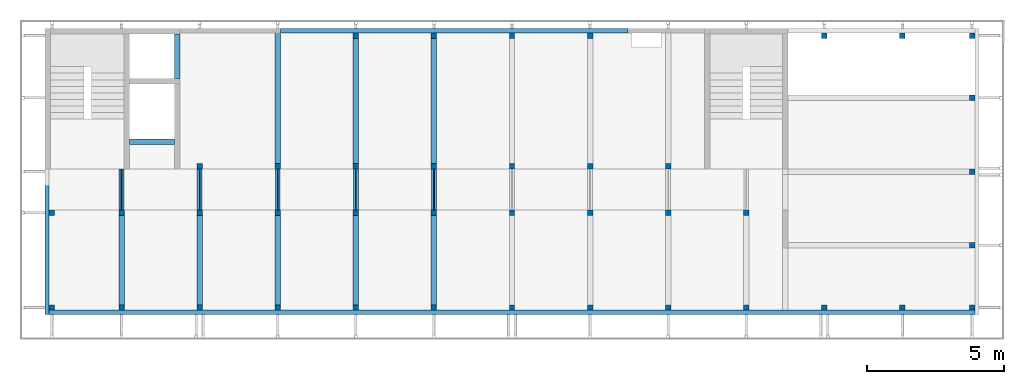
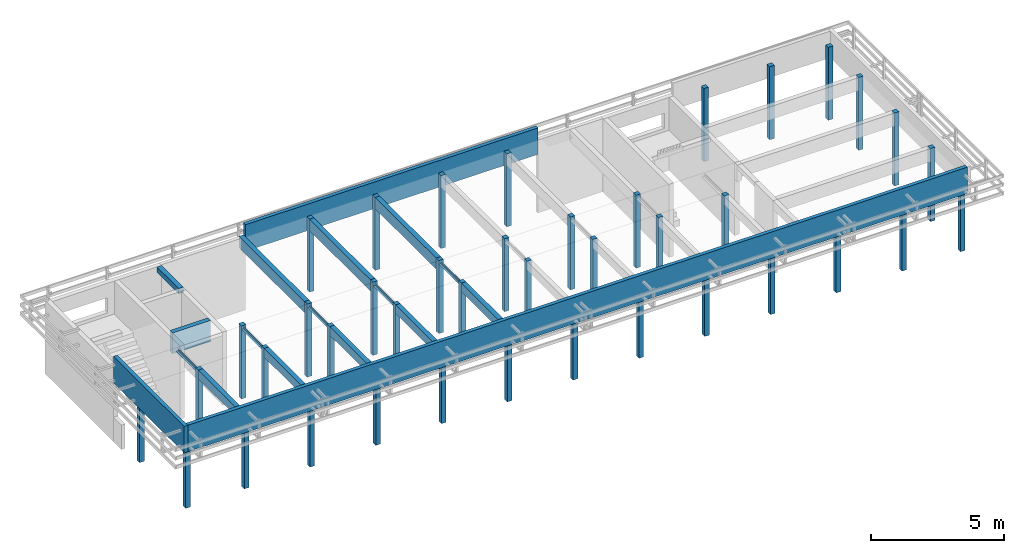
# One storey, part 1 of 44: 40 columns, 18 beams.
"""IFC4 building model written with IfcOpenShell, lengths in metres."""

from ifc_helpers import new_model, entity, si_unit, converted_unit, derived_unit, frame, frame_2d, origin, origin_with_axes, place, context, subcontext, project, spatial, polyline, rectangle, outline, extrude, material, element, save


model = new_model("IFC4")

# Units and contexts
model_context = context("Model", 3, precision=1e-05, world=origin())
plan_context = context("Plan", 2, precision=1e-05, world=origin())
body_context = subcontext(model_context, "Body", "Model", "MODEL_VIEW")
ifc_project = project(units=[si_unit("LENGTHUNIT", "METRE"), si_unit("AREAUNIT", "SQUARE_METRE"), si_unit("VOLUMEUNIT", "CUBIC_METRE"), si_unit("MASSUNIT", "GRAM", prefix="KILO"), converted_unit("PLANEANGLEUNIT", "DEGREE", entity("IfcPlaneAngleMeasure", 0.0174532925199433), si_unit("PLANEANGLEUNIT", "RADIAN"), dimensions=[0, 0, 0, 0, 0, 0, 0]), derived_unit("THERMALTRANSMITTANCEUNIT", [(si_unit("POWERUNIT", "WATT"), 1), (si_unit("THERMODYNAMICTEMPERATUREUNIT", "KELVIN"), -1), (si_unit("LENGTHUNIT", "METRE"), -2)]), derived_unit("VOLUMETRICFLOWRATEUNIT", [(si_unit("LENGTHUNIT", "METRE"), 3), (converted_unit("TIMEUNIT", "hour", entity("IfcTimeMeasure", 3600.0), si_unit("TIMEUNIT", "SECOND"), dimensions=[0, 0, 1, 0, 0, 0, 0]), -1), (si_unit("LENGTHUNIT", "METRE"), -1)])], contexts=[model_context, plan_context])

# Site, building, storey
site_placement = place(None, origin())
site = spatial("IfcSite", under=ifc_project, at=site_placement, Name="Site", CompositionType="ELEMENT")
building_placement = place(site_placement, origin())
building = spatial("IfcBuilding", under=site, at=building_placement, Name="Admin", CompositionType="ELEMENT")
storey_placement = place(building_placement, frame((0.0, 0.0, 3.25)))
storey = spatial("IfcBuildingStorey", under=building, at=storey_placement, Name="01-Etage1", CompositionType="ELEMENT", Elevation=3.25)

# Columns
ifc_material_1 = material(Name="GL24h")
column_1_placement = place(storey_placement, frame((43.8698001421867, 15.499449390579, 0.0)))
element("IfcColumn", 1, at=column_1_placement, inside=storey, material=ifc_material_1, Name="Colonnes bois R+1", PredefinedType="COLUMN", context=body_context, shape_type="SweptSolid", body=[
    extrude(rectangle(XDim=0.200000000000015, YDim=0.2, at=frame_2d((0.100000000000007, 0.1), x_axis=(1.0, 0.0))), origin_with_axes(), (0.0, 0.0, 1.0), 3.36),
])
ifc_material_2 = material(Name="GL24h")
column_2_placement = place(storey_placement, frame((41.0098001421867, 15.499449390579, 0.0)))
element("IfcColumn", 2, at=column_2_placement, inside=storey, material=ifc_material_2, Name="Colonnes bois R+1", PredefinedType="COLUMN", context=body_context, shape_type="SweptSolid", body=[
    extrude(rectangle(XDim=0.200000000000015, YDim=0.2, at=frame_2d((0.100000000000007, 0.1), x_axis=(1.0, 0.0))), origin_with_axes(), (0.0, 0.0, 1.0), 3.36),
])
ifc_material_3 = material(Name="GL24h")
column_3_placement = place(storey_placement, frame((38.1498001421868, 15.499449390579, 0.0)))
element("IfcColumn", 3, at=column_3_placement, inside=storey, material=ifc_material_3, Name="Colonnes bois R+1", PredefinedType="COLUMN", context=body_context, shape_type="SweptSolid", body=[
    extrude(rectangle(XDim=0.200000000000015, YDim=0.2, at=frame_2d((0.100000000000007, 0.1), x_axis=(1.0, 0.0))), origin_with_axes(), (0.0, 0.0, 1.0), 3.36),
])
ifc_material_4 = material(Name="GL24h")
column_4_placement = place(storey_placement, frame((35.2898001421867, 15.499449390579, 0.0)))
element("IfcColumn", 4, at=column_4_placement, inside=storey, material=ifc_material_4, Name="Colonnes bois R+1", PredefinedType="COLUMN", context=body_context, shape_type="SweptSolid", body=[
    extrude(rectangle(XDim=0.200000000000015, YDim=0.2, at=frame_2d((0.100000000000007, 0.1), x_axis=(1.0, 0.0))), origin_with_axes(), (0.0, 0.0, 1.0), 3.36),
])
ifc_material_5 = material(Name="GL24h")
column_5_placement = place(storey_placement, frame((32.4298001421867, 15.499449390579, 0.0)))
element("IfcColumn", 5, at=column_5_placement, inside=storey, material=ifc_material_5, Name="Colonnes bois R+1", PredefinedType="COLUMN", context=body_context, shape_type="SweptSolid", body=[
    extrude(rectangle(XDim=0.200000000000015, YDim=0.2, at=frame_2d((0.100000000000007, 0.1), x_axis=(1.0, 0.0))), origin_with_axes(), (0.0, 0.0, 1.0), 3.36),
])
ifc_material_6 = material(Name="GL24h")
column_6_placement = place(storey_placement, frame((41.0098001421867, 17.199449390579, 0.0)))
element("IfcColumn", 6, at=column_6_placement, inside=storey, material=ifc_material_6, Name="Colonnes bois R+1", PredefinedType="COLUMN", context=body_context, shape_type="SweptSolid", body=[
    extrude(rectangle(XDim=0.200000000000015, YDim=0.2, at=frame_2d((0.100000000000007, 0.1), x_axis=(1.0, 0.0))), origin_with_axes(), (0.0, 0.0, 1.0), 3.36),
])
ifc_material_7 = material(Name="GL24h")
column_7_placement = place(storey_placement, frame((35.2898001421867, 17.199449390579, 0.0)))
element("IfcColumn", 7, at=column_7_placement, inside=storey, material=ifc_material_7, Name="Colonnes bois R+1", PredefinedType="COLUMN", context=body_context, shape_type="SweptSolid", body=[
    extrude(rectangle(XDim=0.200000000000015, YDim=0.2, at=frame_2d((0.100000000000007, 0.1), x_axis=(1.0, 0.0))), origin_with_axes(), (0.0, 0.0, 1.0), 3.36),
])
ifc_material_8 = material(Name="GL24h")
column_8_placement = place(storey_placement, frame((38.1498001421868, 17.199449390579, 0.0)))
element("IfcColumn", 8, at=column_8_placement, inside=storey, material=ifc_material_8, Name="Colonnes bois R+1", PredefinedType="COLUMN", context=body_context, shape_type="SweptSolid", body=[
    extrude(rectangle(XDim=0.200000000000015, YDim=0.2, at=frame_2d((0.100000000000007, 0.1), x_axis=(1.0, 0.0))), origin_with_axes(), (0.0, 0.0, 1.0), 3.36),
])
ifc_material_9 = material(Name="GL24h")
column_9_placement = place(storey_placement, frame((57.8598001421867, 17.009449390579, 0.0)))
element("IfcColumn", 9, at=column_9_placement, inside=storey, material=ifc_material_9, Name="Colonnes bois R+1", PredefinedType="COLUMN", context=body_context, shape_type="SweptSolid", body=[
    extrude(rectangle(XDim=0.200000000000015, YDim=0.2, at=frame_2d((0.100000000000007, 0.1), x_axis=(1.0, 0.0))), origin_with_axes(), (0.0, 0.0, 1.0), 3.36),
])
ifc_material_10 = material(Name="GL24h")
column_10_placement = place(storey_placement, frame((57.8598001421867, 14.309449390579, 0.0)))
element("IfcColumn", 10, at=column_10_placement, inside=storey, material=ifc_material_10, Name="Colonnes bois R+1", PredefinedType="COLUMN", context=body_context, shape_type="SweptSolid", body=[
    extrude(rectangle(XDim=0.200000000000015, YDim=0.2, at=frame_2d((0.100000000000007, 0.1), x_axis=(1.0, 0.0))), origin_with_axes(), (0.0, 0.0, 1.0), 3.36),
])
ifc_material_11 = material(Name="GL24h")
column_11_placement = place(storey_placement, frame((55.3098001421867, 21.989449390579, 0.0)))
element("IfcColumn", 11, at=column_11_placement, inside=storey, material=ifc_material_11, Name="Colonnes bois R+1", PredefinedType="COLUMN", context=body_context, shape_type="SweptSolid", body=[
    extrude(rectangle(XDim=0.200000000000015, YDim=0.2, at=frame_2d((0.100000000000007, 0.1), x_axis=(1.0, 0.0))), origin_with_axes(), (0.0, 0.0, 1.0), 3.36),
])
ifc_material_12 = material(Name="GL24h")
column_12_placement = place(storey_placement, frame((52.4498001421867, 21.989449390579, 0.0)))
element("IfcColumn", 12, at=column_12_placement, inside=storey, material=ifc_material_12, Name="Colonnes bois R+1", PredefinedType="COLUMN", context=body_context, shape_type="SweptSolid", body=[
    extrude(rectangle(XDim=0.200000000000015, YDim=0.2, at=frame_2d((0.100000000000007, 0.1), x_axis=(1.0, 0.0))), origin_with_axes(), (0.0, 0.0, 1.0), 3.36),
])
ifc_material_13 = material(Name="GL24h")
column_13_placement = place(storey_placement, frame((57.8598001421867, 19.709449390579, 0.0)))
element("IfcColumn", 13, at=column_13_placement, inside=storey, material=ifc_material_13, Name="Colonnes bois R+1", PredefinedType="COLUMN", context=body_context, shape_type="SweptSolid", body=[
    extrude(rectangle(XDim=0.200000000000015, YDim=0.2, at=frame_2d((0.100000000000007, 0.1), x_axis=(1.0, 0.0))), origin_with_axes(), (0.0, 0.0, 1.0), 3.36),
])
ifc_material_14 = material(Name="GL24h")
column_14_placement = place(storey_placement, frame((57.8598001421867, 21.989449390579, 0.0)))
element("IfcColumn", 14, at=column_14_placement, inside=storey, material=ifc_material_14, Name="Colonnes bois R+1", PredefinedType="COLUMN", context=body_context, shape_type="SweptSolid", body=[
    extrude(rectangle(XDim=0.200000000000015, YDim=0.2, at=frame_2d((0.100000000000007, 0.1), x_axis=(1.0, 0.0))), origin_with_axes(), (0.0, 0.0, 1.0), 3.36),
])
ifc_material_15 = material(Name="GL24h")
column_15_placement = place(storey_placement, frame((46.7298001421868, 15.499449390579, 0.0)))
element("IfcColumn", 15, at=column_15_placement, inside=storey, material=ifc_material_15, Name="Colonnes bois R+1", PredefinedType="COLUMN", context=body_context, shape_type="SweptSolid", body=[
    extrude(rectangle(XDim=0.200000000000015, YDim=0.2, at=frame_2d((0.100000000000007, 0.1), x_axis=(1.0, 0.0))), origin_with_axes(), (0.0, 0.0, 1.0), 3.36),
])
ifc_material_16 = material(Name="GL24h")
column_16_placement = place(storey_placement, frame((49.5898001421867, 15.499449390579, 0.0)))
element("IfcColumn", 16, at=column_16_placement, inside=storey, material=ifc_material_16, Name="Colonnes bois R+1", PredefinedType="COLUMN", context=body_context, shape_type="SweptSolid", body=[
    extrude(rectangle(XDim=0.200000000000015, YDim=0.2, at=frame_2d((0.100000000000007, 0.1), x_axis=(1.0, 0.0))), origin_with_axes(), (0.0, 0.0, 1.0), 3.36),
])
ifc_material_17 = material(Name="GL24h")
column_17_placement = place(storey_placement, frame((49.5898001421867, 12.029449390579, 0.0)))
element("IfcColumn", 17, at=column_17_placement, inside=storey, material=ifc_material_17, Name="Colonnes bois R+1", PredefinedType="COLUMN", context=body_context, shape_type="SweptSolid", body=[
    extrude(rectangle(XDim=0.200000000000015, YDim=0.2, at=frame_2d((0.100000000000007, 0.1), x_axis=(1.0, 0.0))), origin_with_axes(), (0.0, 0.0, 1.0), 3.36),
])
ifc_material_18 = material(Name="GL24h")
column_18_placement = place(storey_placement, frame((57.8598001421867, 12.029449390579, 0.0)))
element("IfcColumn", 18, at=column_18_placement, inside=storey, material=ifc_material_18, Name="Colonnes bois R+1", PredefinedType="COLUMN", context=body_context, shape_type="SweptSolid", body=[
    extrude(rectangle(XDim=0.200000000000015, YDim=0.2, at=frame_2d((0.100000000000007, 0.1), x_axis=(1.0, 0.0))), origin_with_axes(), (0.0, 0.0, 1.0), 3.36),
])
ifc_material_19 = material(Name="GL24h")
column_19_placement = place(storey_placement, frame((55.3098001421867, 12.029449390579, 0.0)))
element("IfcColumn", 19, at=column_19_placement, inside=storey, material=ifc_material_19, Name="Colonnes bois R+1", PredefinedType="COLUMN", context=body_context, shape_type="SweptSolid", body=[
    extrude(rectangle(XDim=0.200000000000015, YDim=0.2, at=frame_2d((0.100000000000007, 0.1), x_axis=(1.0, 0.0))), origin_with_axes(), (0.0, 0.0, 1.0), 3.36),
])
ifc_material_20 = material(Name="GL24h")
column_20_placement = place(storey_placement, frame((41.0098001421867, 12.029449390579, 0.0)))
element("IfcColumn", 20, at=column_20_placement, inside=storey, material=ifc_material_20, Name="Colonnes bois R+1", PredefinedType="COLUMN", context=body_context, shape_type="SweptSolid", body=[
    extrude(rectangle(XDim=0.200000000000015, YDim=0.2, at=frame_2d((0.100000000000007, 0.1), x_axis=(1.0, 0.0))), origin_with_axes(), (0.0, 0.0, 1.0), 3.36),
])
ifc_material_21 = material(Name="GL24h")
column_21_placement = place(storey_placement, frame((38.1498001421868, 12.029449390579, 0.0)))
element("IfcColumn", 21, at=column_21_placement, inside=storey, material=ifc_material_21, Name="Colonnes bois R+1", PredefinedType="COLUMN", context=body_context, shape_type="SweptSolid", body=[
    extrude(rectangle(XDim=0.200000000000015, YDim=0.2, at=frame_2d((0.100000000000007, 0.1), x_axis=(1.0, 0.0))), origin_with_axes(), (0.0, 0.0, 1.0), 3.36),
])
ifc_material_22 = material(Name="GL24h")
column_22_placement = place(storey_placement, frame((35.2898001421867, 12.029449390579, 0.0)))
element("IfcColumn", 22, at=column_22_placement, inside=storey, material=ifc_material_22, Name="Colonnes bois R+1", PredefinedType="COLUMN", context=body_context, shape_type="SweptSolid", body=[
    extrude(rectangle(XDim=0.200000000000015, YDim=0.2, at=frame_2d((0.100000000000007, 0.1), x_axis=(1.0, 0.0))), origin_with_axes(), (0.0, 0.0, 1.0), 3.36),
])
ifc_material_23 = material(Name="GL24h")
column_23_placement = place(storey_placement, frame((29.5698001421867, 12.029449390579, 0.0)))
element("IfcColumn", 23, at=column_23_placement, inside=storey, material=ifc_material_23, Name="Colonnes bois R+1", PredefinedType="COLUMN", context=body_context, shape_type="SweptSolid", body=[
    extrude(rectangle(XDim=0.200000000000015, YDim=0.2, at=frame_2d((0.100000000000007, 0.1), x_axis=(1.0, 0.0))), origin_with_axes(), (0.0, 0.0, 1.0), 3.36),
])
ifc_material_24 = material(Name="GL24h")
column_24_placement = place(storey_placement, frame((43.8698001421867, 12.029449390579, 0.0)))
element("IfcColumn", 24, at=column_24_placement, inside=storey, material=ifc_material_24, Name="Colonnes bois R+1", PredefinedType="COLUMN", context=body_context, shape_type="SweptSolid", body=[
    extrude(rectangle(XDim=0.200000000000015, YDim=0.2, at=frame_2d((0.100000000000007, 0.1), x_axis=(1.0, 0.0))), origin_with_axes(), (0.0, 0.0, 1.0), 3.36),
])
ifc_material_25 = material(Name="GL24h")
column_25_placement = place(storey_placement, frame((46.7298001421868, 12.029449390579, 0.0)))
element("IfcColumn", 25, at=column_25_placement, inside=storey, material=ifc_material_25, Name="Colonnes bois R+1", PredefinedType="COLUMN", context=body_context, shape_type="SweptSolid", body=[
    extrude(rectangle(XDim=0.200000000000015, YDim=0.2, at=frame_2d((0.100000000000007, 0.1), x_axis=(1.0, 0.0))), origin_with_axes(), (0.0, 0.0, 1.0), 3.36),
])
ifc_material_26 = material(Name="GL24h")
column_26_placement = place(storey_placement, frame((32.4298001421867, 12.029449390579, 0.0)))
element("IfcColumn", 26, at=column_26_placement, inside=storey, material=ifc_material_26, Name="Colonnes bois R+1", PredefinedType="COLUMN", context=body_context, shape_type="SweptSolid", body=[
    extrude(rectangle(XDim=0.200000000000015, YDim=0.2, at=frame_2d((0.100000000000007, 0.1), x_axis=(1.0, 0.0))), origin_with_axes(), (0.0, 0.0, 1.0), 3.36),
])
ifc_material_27 = material(Name="GL24h")
column_27_placement = place(storey_placement, frame((52.4498001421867, 12.029449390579, 0.0)))
element("IfcColumn", 27, at=column_27_placement, inside=storey, material=ifc_material_27, Name="Colonnes bois R+1", PredefinedType="COLUMN", context=body_context, shape_type="SweptSolid", body=[
    extrude(rectangle(XDim=0.200000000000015, YDim=0.2, at=frame_2d((0.100000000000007, 0.1), x_axis=(1.0, 0.0))), origin_with_axes(), (0.0, 0.0, 1.0), 3.36),
])
ifc_material_28 = material(Name="GL24h")
column_28_placement = place(storey_placement, frame((24.1598005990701, 12.029449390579, 0.0)))
element("IfcColumn", 28, at=column_28_placement, inside=storey, material=ifc_material_28, Name="Colonnes bois R+1", PredefinedType="COLUMN", context=body_context, shape_type="SweptSolid", body=[
    extrude(rectangle(XDim=0.200000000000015, YDim=0.2, at=frame_2d((0.100000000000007, 0.1), x_axis=(1.0, 0.0))), origin_with_axes(), (0.0, 0.0, 1.0), 3.36),
])
ifc_material_29 = material(Name="GL24h")
column_29_placement = place(storey_placement, frame((26.7098005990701, 12.029449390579, 0.0)))
element("IfcColumn", 29, at=column_29_placement, inside=storey, material=ifc_material_29, Name="Colonnes bois R+1", PredefinedType="COLUMN", context=body_context, shape_type="SweptSolid", body=[
    extrude(rectangle(XDim=0.200000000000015, YDim=0.2, at=frame_2d((0.100000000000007, 0.1), x_axis=(1.0, 0.0))), origin_with_axes(), (0.0, 0.0, 1.0), 3.36),
])
ifc_material_30 = material(Name="GL24h")
column_30_placement = place(storey_placement, frame((24.1598005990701, 15.499449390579, 0.0)))
element("IfcColumn", 30, at=column_30_placement, inside=storey, material=ifc_material_30, Name="Colonnes bois R+1", PredefinedType="COLUMN", context=body_context, shape_type="SweptSolid", body=[
    extrude(rectangle(XDim=0.200000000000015, YDim=0.2, at=frame_2d((0.100000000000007, 0.1), x_axis=(1.0, 0.0))), origin_with_axes(), (0.0, 0.0, 1.0), 3.36),
])
ifc_material_31 = material(Name="GL24h")
column_31_placement = place(storey_placement, frame((41.0098001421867, 21.989449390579, 0.0)))
element("IfcColumn", 31, at=column_31_placement, inside=storey, material=ifc_material_31, Name="Colonnes bois R+1", PredefinedType="COLUMN", context=body_context, shape_type="SweptSolid", body=[
    extrude(rectangle(XDim=0.200000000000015, YDim=0.2, at=frame_2d((0.100000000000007, 0.1), x_axis=(1.0, 0.0))), origin_with_axes(), (0.0, 0.0, 1.0), 3.36),
])
ifc_material_32 = material(Name="GL24h")
column_32_placement = place(storey_placement, frame((35.2898001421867, 21.989449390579, 0.0)))
element("IfcColumn", 32, at=column_32_placement, inside=storey, material=ifc_material_32, Name="Colonnes bois R+1", PredefinedType="COLUMN", context=body_context, shape_type="SweptSolid", body=[
    extrude(rectangle(XDim=0.200000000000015, YDim=0.2, at=frame_2d((0.100000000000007, 0.1), x_axis=(1.0, 0.0))), origin_with_axes(), (0.0, 0.0, 1.0), 3.36),
])
ifc_material_33 = material(Name="GL24h")
column_33_placement = place(storey_placement, frame((38.1498001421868, 21.989449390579, 0.0)))
element("IfcColumn", 33, at=column_33_placement, inside=storey, material=ifc_material_33, Name="Colonnes bois R+1", PredefinedType="COLUMN", context=body_context, shape_type="SweptSolid", body=[
    extrude(rectangle(XDim=0.200000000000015, YDim=0.2, at=frame_2d((0.100000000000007, 0.1), x_axis=(1.0, 0.0))), origin_with_axes(), (0.0, 0.0, 1.0), 3.36),
])
ifc_material_34 = material(Name="GL24h")
column_34_placement = place(storey_placement, frame((32.4298001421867, 17.199449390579, 0.0)))
element("IfcColumn", 34, at=column_34_placement, inside=storey, material=ifc_material_34, Name="Colonnes bois R+1", PredefinedType="COLUMN", context=body_context, shape_type="SweptSolid", body=[
    extrude(rectangle(XDim=0.200000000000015, YDim=0.2, at=frame_2d((0.100000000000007, 0.1), x_axis=(1.0, 0.0))), origin_with_axes(), (0.0, 0.0, 1.0), 3.36),
])
ifc_material_35 = material(Name="GL24h")
column_35_placement = place(storey_placement, frame((26.7098005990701, 15.499449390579, 0.0)))
element("IfcColumn", 35, at=column_35_placement, inside=storey, material=ifc_material_35, Name="Colonnes bois R+1", PredefinedType="COLUMN", context=body_context, shape_type="SweptSolid", body=[
    extrude(rectangle(XDim=0.200000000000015, YDim=0.2, at=frame_2d((0.100000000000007, 0.1), x_axis=(1.0, 0.0))), origin_with_axes(), (0.0, 0.0, 1.0), 3.36),
])
ifc_material_36 = material(Name="GL24h")
column_36_placement = place(storey_placement, frame((29.5698001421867, 17.199449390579, 0.0)))
element("IfcColumn", 36, at=column_36_placement, inside=storey, material=ifc_material_36, Name="Colonnes bois R+1", PredefinedType="COLUMN", context=body_context, shape_type="SweptSolid", body=[
    extrude(rectangle(XDim=0.200000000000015, YDim=0.2, at=frame_2d((0.100000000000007, 0.1), x_axis=(1.0, 0.0))), origin_with_axes(), (0.0, 0.0, 1.0), 3.36),
])
ifc_material_37 = material(Name="GL24h")
column_37_placement = place(storey_placement, frame((29.5698001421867, 15.499449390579, 0.0)))
element("IfcColumn", 37, at=column_37_placement, inside=storey, material=ifc_material_37, Name="Colonnes bois R+1", PredefinedType="COLUMN", context=body_context, shape_type="SweptSolid", body=[
    extrude(rectangle(XDim=0.200000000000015, YDim=0.2, at=frame_2d((0.100000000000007, 0.1), x_axis=(1.0, 0.0))), origin_with_axes(), (0.0, 0.0, 1.0), 3.36),
])
ifc_material_38 = material(Name="GL24h")
column_38_placement = place(storey_placement, frame((43.8698001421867, 21.989449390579, 0.0)))
element("IfcColumn", 38, at=column_38_placement, inside=storey, material=ifc_material_38, Name="Colonnes bois R+1", PredefinedType="COLUMN", context=body_context, shape_type="SweptSolid", body=[
    extrude(rectangle(XDim=0.200000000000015, YDim=0.2, at=frame_2d((0.100000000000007, 0.1), x_axis=(1.0, 0.0))), origin_with_axes(), (0.0, 0.0, 1.0), 3.36),
])
ifc_material_39 = material(Name="GL24h")
column_39_placement = place(storey_placement, frame((46.7298001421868, 17.199449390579, 0.0)))
element("IfcColumn", 39, at=column_39_placement, inside=storey, material=ifc_material_39, Name="Colonnes bois R+1", PredefinedType="COLUMN", context=body_context, shape_type="SweptSolid", body=[
    extrude(rectangle(XDim=0.200000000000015, YDim=0.2, at=frame_2d((0.100000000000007, 0.1), x_axis=(1.0, 0.0))), origin_with_axes(), (0.0, 0.0, 1.0), 3.36),
])
ifc_material_40 = material(Name="GL24h")
column_40_placement = place(storey_placement, frame((43.8698001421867, 17.199449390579, 0.0)))
element("IfcColumn", 40, at=column_40_placement, inside=storey, material=ifc_material_40, Name="Colonnes bois R+1", PredefinedType="COLUMN", context=body_context, shape_type="SweptSolid", body=[
    extrude(rectangle(XDim=0.200000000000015, YDim=0.2, at=frame_2d((0.100000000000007, 0.1), x_axis=(1.0, 0.0))), origin_with_axes(), (0.0, 0.0, 1.0), 3.36),
])

# Beams
ifc_material_41 = material(Name="GL24h")
beam_1_placement = place(storey_placement, frame((38.1498001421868, 21.989449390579, 2.84), z_axis=(0.0, 0.0, 1.0), x_axis=(0.0, -1.0, 0.0)))
element("IfcBeam", 41, at=beam_1_placement, inside=storey, material=ifc_material_41, Name="P 1.04", PredefinedType="NOTDEFINED", context=body_context, shape_type="SweptSolid", body=[
    extrude(rectangle(XDim=0.2, YDim=0.52, at=frame_2d((0.1, 0.26), x_axis=(1.0, 0.0))), frame((0.0, 0.0, 0.0), z_axis=(1.0, 0.0, 0.0), x_axis=(0.0, 1.0, 0.0)), (0.0, 0.0, 1.0), 4.59),
])
ifc_material_42 = material(Name="GL24h")
beam_2_placement = place(storey_placement, frame((35.2898001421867, 21.989449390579, 2.84), z_axis=(0.0, 0.0, 1.0), x_axis=(0.0, -1.0, 0.0)))
element("IfcBeam", 42, at=beam_2_placement, inside=storey, material=ifc_material_42, Name="P 1.03", PredefinedType="NOTDEFINED", context=body_context, shape_type="SweptSolid", body=[
    extrude(rectangle(XDim=0.2, YDim=0.52, at=frame_2d((0.1, 0.26), x_axis=(1.0, 0.0))), frame((0.0, 0.0, 0.0), z_axis=(1.0, 0.0, 0.0), x_axis=(0.0, 1.0, 0.0)), (0.0, 0.0, 1.0), 4.59),
])
ifc_material_43 = material(Name="GL24h")
beam_3_placement = place(storey_placement, frame((38.1498001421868, 15.499449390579, 2.96), z_axis=(0.0, 0.0, 1.0), x_axis=(-4.45012698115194e-15, -1.0, 0.0)))
element("IfcBeam", 43, at=beam_3_placement, inside=storey, material=ifc_material_43, Name="P 1.12", PredefinedType="NOTDEFINED", context=body_context, shape_type="SweptSolid", body=[
    extrude(rectangle(XDim=0.2, YDim=0.4, at=frame_2d((0.1, 0.2), x_axis=(1.0, 0.0))), frame((0.0, 0.0, 0.0), z_axis=(1.0, 0.0, 0.0), x_axis=(0.0, 1.0, 0.0)), (0.0, 0.0, 1.0), 3.27),
])
ifc_material_44 = material(Name="GL24h")
beam_4_placement = place(storey_placement, frame((32.4298001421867, 15.499449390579, 2.96), z_axis=(0.0, 0.0, 1.0), x_axis=(-4.45012698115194e-15, -1.0, 0.0)))
element("IfcBeam", 44, at=beam_4_placement, inside=storey, material=ifc_material_44, Name="P 1.10", PredefinedType="NOTDEFINED", context=body_context, shape_type="SweptSolid", body=[
    extrude(rectangle(XDim=0.2, YDim=0.4, at=frame_2d((0.1, 0.2), x_axis=(1.0, 0.0))), frame((0.0, 0.0, 0.0), z_axis=(1.0, 0.0, 0.0), x_axis=(0.0, 1.0, 0.0)), (0.0, 0.0, 1.0), 3.27),
])
ifc_material_45 = material(Name="GL24h")
beam_5_placement = place(storey_placement, frame((35.2898001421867, 15.499449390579, 2.96), z_axis=(0.0, 0.0, 1.0), x_axis=(-4.45012698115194e-15, -1.0, 0.0)))
element("IfcBeam", 45, at=beam_5_placement, inside=storey, material=ifc_material_45, Name="P 1.11", PredefinedType="NOTDEFINED", context=body_context, shape_type="SweptSolid", body=[
    extrude(rectangle(XDim=0.2, YDim=0.4, at=frame_2d((0.1, 0.2), x_axis=(1.0, 0.0))), frame((0.0, 0.0, 0.0), z_axis=(1.0, 0.0, 0.0), x_axis=(0.0, 1.0, 0.0)), (0.0, 0.0, 1.0), 3.27),
])
ifc_material_46 = material(Name="GL24h")
beam_6_placement = place(storey_placement, frame((29.5698001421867, 15.499449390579, 2.96), z_axis=(0.0, 0.0, 1.0), x_axis=(-4.45012698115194e-15, -1.0, 0.0)))
element("IfcBeam", 46, at=beam_6_placement, inside=storey, material=ifc_material_46, Name="P 1.09", PredefinedType="NOTDEFINED", context=body_context, shape_type="SweptSolid", body=[
    extrude(rectangle(XDim=0.2, YDim=0.4, at=frame_2d((0.1, 0.2), x_axis=(1.0, 0.0))), frame((0.0, 0.0, 0.0), z_axis=(1.0, 0.0, 0.0), x_axis=(0.0, 1.0, 0.0)), (0.0, 0.0, 1.0), 3.27),
])
ifc_material_47 = material(Name="S235")
beam_7_placement = place(storey_placement, frame((32.4398001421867, 17.199449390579, 3.186), z_axis=(0.0, 0.0, 1.0), x_axis=(0.0, -1.0, 0.0)))
element("IfcBeam", 47, at=beam_7_placement, inside=storey, material=ifc_material_47, Name="PM 1.03", PredefinedType="NOTDEFINED", context=body_context, shape_type="SweptSolid", body=[
    extrude(outline(polyline([(1.4210854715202e-17, 0.0), (0.014, 0.0), (0.014, 0.07075), (0.0142278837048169, 0.073354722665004), (0.0149046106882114, 0.075880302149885), (0.0160096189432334, 0.07825), (0.0175093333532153, 0.0803918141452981), (0.0193581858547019, 0.0822406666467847), (0.0215, 0.0837403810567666), (0.023869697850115, 0.0848453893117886), (0.0263952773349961, 0.0855221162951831), (0.029, 0.08575), (0.09, 0.08575), (0.09, 0.09425), (0.029, 0.09425), (0.0263952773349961, 0.0944778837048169), (0.023869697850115, 0.0951546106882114), (0.0215, 0.0962596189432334), (0.0193581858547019, 0.0977593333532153), (0.0175093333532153, 0.0996081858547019), (0.0160096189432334, 0.10175), (0.0149046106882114, 0.104119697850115), (0.0142278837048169, 0.106645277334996), (0.014, 0.10925), (0.014, 0.18), (0.0, 0.18), (1.4210854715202e-17, 0.0)])), frame((0.0, 0.18, 0.0), z_axis=(1.0, 0.0, 0.0), x_axis=(0.0, 0.0, 1.0)), (0.0, 0.0, 1.0), 1.5),
])
ifc_material_48 = material(Name="S235")
beam_8_placement = place(storey_placement, frame((35.2998001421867, 17.199449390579, 3.186), z_axis=(0.0, 0.0, 1.0), x_axis=(0.0, -1.0, 0.0)))
element("IfcBeam", 48, at=beam_8_placement, inside=storey, material=ifc_material_48, Name="PM 1.04", PredefinedType="NOTDEFINED", context=body_context, shape_type="SweptSolid", body=[
    extrude(outline(polyline([(1.4210854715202e-17, 0.0), (0.014, 0.0), (0.014, 0.07075), (0.0142278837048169, 0.073354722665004), (0.0149046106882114, 0.075880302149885), (0.0160096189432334, 0.07825), (0.0175093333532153, 0.0803918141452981), (0.0193581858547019, 0.0822406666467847), (0.0215, 0.0837403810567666), (0.023869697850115, 0.0848453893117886), (0.0263952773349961, 0.0855221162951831), (0.029, 0.08575), (0.09, 0.08575), (0.09, 0.09425), (0.029, 0.09425), (0.0263952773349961, 0.0944778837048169), (0.023869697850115, 0.0951546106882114), (0.0215, 0.0962596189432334), (0.0193581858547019, 0.0977593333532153), (0.0175093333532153, 0.0996081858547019), (0.0160096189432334, 0.10175), (0.0149046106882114, 0.104119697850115), (0.0142278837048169, 0.106645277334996), (0.014, 0.10925), (0.014, 0.18), (0.0, 0.18), (1.4210854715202e-17, 0.0)])), frame((0.0, 0.18, 0.0), z_axis=(1.0, 0.0, 0.0), x_axis=(0.0, 0.0, 1.0)), (0.0, 0.0, 1.0), 1.5),
])
ifc_material_49 = material(Name="S235")
beam_9_placement = place(storey_placement, frame((38.1598001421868, 17.199449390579, 3.186), z_axis=(0.0, 0.0, 1.0), x_axis=(0.0, -1.0, 0.0)))
element("IfcBeam", 49, at=beam_9_placement, inside=storey, material=ifc_material_49, Name="PM 1.05", PredefinedType="NOTDEFINED", context=body_context, shape_type="SweptSolid", body=[
    extrude(outline(polyline([(1.4210854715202e-17, 0.0), (0.014, 0.0), (0.014, 0.07075), (0.0142278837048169, 0.073354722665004), (0.0149046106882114, 0.075880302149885), (0.0160096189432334, 0.07825), (0.0175093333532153, 0.0803918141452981), (0.0193581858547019, 0.0822406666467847), (0.0215, 0.0837403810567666), (0.023869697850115, 0.0848453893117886), (0.0263952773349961, 0.0855221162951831), (0.029, 0.08575), (0.09, 0.08575), (0.09, 0.09425), (0.029, 0.09425), (0.0263952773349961, 0.0944778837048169), (0.023869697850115, 0.0951546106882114), (0.0215, 0.0962596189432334), (0.0193581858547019, 0.0977593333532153), (0.0175093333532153, 0.0996081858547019), (0.0160096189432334, 0.10175), (0.0149046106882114, 0.104119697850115), (0.0142278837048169, 0.106645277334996), (0.014, 0.10925), (0.014, 0.18), (0.0, 0.18), (1.4210854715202e-17, 0.0)])), frame((0.0, 0.18, 0.0), z_axis=(1.0, 0.0, 0.0), x_axis=(0.0, 0.0, 1.0)), (0.0, 0.0, 1.0), 1.5),
])
ifc_material_50 = material(Name="GL24h")
beam_10_placement = place(storey_placement, frame((26.7098005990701, 15.499449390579, 2.96), z_axis=(0.0, 0.0, 1.0), x_axis=(-4.45012698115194e-15, -1.0, 0.0)))
element("IfcBeam", 50, at=beam_10_placement, inside=storey, material=ifc_material_50, Name="P 1.08", PredefinedType="NOTDEFINED", context=body_context, shape_type="SweptSolid", body=[
    extrude(rectangle(XDim=0.2, YDim=0.4, at=frame_2d((0.1, 0.2), x_axis=(1.0, 0.0))), frame((0.0, 0.0, 0.0), z_axis=(1.0, 0.0, 0.0), x_axis=(0.0, 1.0, 0.0)), (0.0, 0.0, 1.0), 3.27),
])
ifc_material_51 = material(Name="GL24h")
beam_11_placement = place(storey_placement, frame((32.4298001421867, 22.349449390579, 2.84), z_axis=(0.0, 0.0, 1.0), x_axis=(0.0, -1.0, 0.0)))
element("IfcBeam", 51, at=beam_11_placement, inside=storey, material=ifc_material_51, Name="P 1.02", PredefinedType="NOTDEFINED", context=body_context, shape_type="SweptSolid", body=[
    extrude(rectangle(XDim=0.2, YDim=0.52, at=frame_2d((0.1, 0.26), x_axis=(1.0, 0.0))), frame((0.0, 0.0, 0.0), z_axis=(1.0, 0.0, 0.0), x_axis=(0.0, 1.0, 0.0)), (0.0, 0.0, 1.0), 4.95),
])
ifc_material_52 = material(Name="S235")
beam_12_placement = place(storey_placement, frame((29.5798001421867, 17.199449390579, 3.186), z_axis=(0.0, 0.0, 1.0), x_axis=(0.0, -1.0, 0.0)))
element("IfcBeam", 52, at=beam_12_placement, inside=storey, material=ifc_material_52, Name="PM 1.02", PredefinedType="NOTDEFINED", context=body_context, shape_type="SweptSolid", body=[
    extrude(outline(polyline([(1.4210854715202e-17, 0.0), (0.014, 0.0), (0.014, 0.07075), (0.0142278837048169, 0.073354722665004), (0.0149046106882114, 0.075880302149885), (0.0160096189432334, 0.07825), (0.0175093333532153, 0.0803918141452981), (0.0193581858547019, 0.0822406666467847), (0.0215, 0.0837403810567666), (0.023869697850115, 0.0848453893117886), (0.0263952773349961, 0.0855221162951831), (0.029, 0.08575), (0.09, 0.08575), (0.09, 0.09425), (0.029, 0.09425), (0.0263952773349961, 0.0944778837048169), (0.023869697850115, 0.0951546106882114), (0.0215, 0.0962596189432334), (0.0193581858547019, 0.0977593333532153), (0.0175093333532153, 0.0996081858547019), (0.0160096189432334, 0.10175), (0.0149046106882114, 0.104119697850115), (0.0142278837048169, 0.106645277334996), (0.014, 0.10925), (0.014, 0.18), (0.0, 0.18), (1.4210854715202e-17, 0.0)])), frame((0.0, 0.18, 0.0), z_axis=(1.0, 0.0, 0.0), x_axis=(0.0, 0.0, 1.0)), (0.0, 0.0, 1.0), 1.5),
])
ifc_material_53 = material(Name="C30/37")
beam_13_placement = place(storey_placement, frame((28.7498290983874, 18.2994421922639, 2.4), z_axis=(0.0, 0.0, 1.0), x_axis=(-1.0, 0.0, 0.0)))
element("IfcBeam", 53, at=beam_13_placement, inside=storey, material=ifc_material_53, Name="PBA 1.01", PredefinedType="NOTDEFINED", context=body_context, shape_type="SweptSolid", body=[
    extrude(rectangle(XDim=0.2, YDim=0.96, at=frame_2d((0.1, 0.48), x_axis=(1.0, 0.0))), frame((0.0, 0.0, 0.0), z_axis=(1.0, 0.0, 0.0), x_axis=(0.0, 1.0, 0.0)), (0.0, 0.0, 1.0), 1.65000000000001),
])
ifc_material_54 = material(Name="S235")
beam_14_placement = place(storey_placement, frame((26.7198001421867, 17.199449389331, 3.186), z_axis=(0.0, 0.0, 1.0), x_axis=(3.04588931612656e-07, -0.999999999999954, 0.0)))
element("IfcBeam", 54, at=beam_14_placement, inside=storey, material=ifc_material_54, Name="PM 1.01", PredefinedType="NOTDEFINED", context=body_context, shape_type="SweptSolid", body=[
    extrude(outline(polyline([(1.4210854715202e-17, 0.0), (0.014, 0.0), (0.014, 0.0707499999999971), (0.0142278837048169, 0.073354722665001), (0.0149046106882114, 0.075880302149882), (0.0160096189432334, 0.0782499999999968), (0.0175093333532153, 0.0803918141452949), (0.0193581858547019, 0.0822406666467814), (0.0215, 0.0837403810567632), (0.023869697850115, 0.0848453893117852), (0.0263952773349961, 0.0855221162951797), (0.029, 0.0857499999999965), (0.09, 0.0857499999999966), (0.09, 0.0942499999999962), (0.029, 0.0942499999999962), (0.0263952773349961, 0.0944778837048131), (0.023869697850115, 0.0951546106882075), (0.0215, 0.0962596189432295), (0.0193581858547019, 0.0977593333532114), (0.0175093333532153, 0.0996081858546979), (0.0160096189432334, 0.101749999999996), (0.0149046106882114, 0.104119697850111), (0.0142278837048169, 0.106645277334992), (0.014, 0.109249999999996), (0.014, 0.179999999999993), (0.0, 0.179999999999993), (1.4210854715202e-17, 0.0)])), frame((0.0, 0.179999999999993, 0.0), z_axis=(1.0, 0.0, 0.0), x_axis=(0.0, 0.0, 1.0)), (0.0, 0.0, 1.0), 1.50000000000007),
])
ifc_material_55 = material(Name="GL24h")
beam_15_placement = place(storey_placement, frame((28.7498295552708, 22.1494421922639, 3.12), z_axis=(0.0, 0.0, 1.0), x_axis=(0.0, -1.0, 0.0)))
element("IfcBeam", 55, at=beam_15_placement, inside=storey, material=ifc_material_55, Name="P 1.01", PredefinedType="NOTDEFINED", context=body_context, shape_type="SweptSolid", body=[
    extrude(rectangle(XDim=0.2, YDim=0.24, at=frame_2d((0.1, 0.12), x_axis=(1.0, 0.0))), frame((0.0, 0.0, 0.0), z_axis=(1.0, 0.0, 0.0), x_axis=(0.0, 1.0, 0.0)), (0.0, 0.0, 1.0), 1.64),
])
ifc_material_56 = material(Name="CLT")
beam_16_placement = place(storey_placement, frame((58.0598001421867, 12.029449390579, 2.7), z_axis=(0.0, 0.0, 1.0), x_axis=(-1.0, 0.0, 0.0)))
element("IfcBeam", 56, at=beam_16_placement, inside=storey, material=ifc_material_56, Name="Poutre CLT Axe 2.2 R+1", PredefinedType="NOTDEFINED", context=body_context, shape_type="SweptSolid", body=[
    extrude(rectangle(XDim=0.16, YDim=1.22, at=frame_2d((0.08, 0.61), x_axis=(1.0, 0.0))), frame((0.0, 0.0, 0.0), z_axis=(1.0, 0.0, 0.0), x_axis=(0.0, 1.0, 0.0)), (0.0, 0.0, 1.0), 33.8999995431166),
])
ifc_material_57 = material(Name="CLT")
beam_17_placement = place(storey_placement, frame((24.1598005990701, 11.869449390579, 2.7), z_axis=(0.0, 0.0, 1.0), x_axis=(2.73019047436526e-15, 1.0, 0.0)))
element("IfcBeam", 57, at=beam_17_placement, inside=storey, material=ifc_material_57, Name="Poutre CLT Axe 2.A R+1", PredefinedType="NOTDEFINED", context=body_context, shape_type="SweptSolid", body=[
    extrude(rectangle(XDim=0.16, YDim=1.22, at=frame_2d((0.08, 0.61), x_axis=(1.0, 0.0))), frame((0.0, 0.0, 0.0), z_axis=(1.0, 0.0, 0.0), x_axis=(0.0, 1.0, 0.0)), (0.0, 0.0, 1.0), 5.33),
])
ifc_material_58 = material(Name="CLT")
beam_18_placement = place(storey_placement, frame((32.6298001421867, 22.189449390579, 2.7)))
element("IfcBeam", 58, at=beam_18_placement, inside=storey, material=ifc_material_58, Name="Poutre CLT Axe 2.6 R+1", PredefinedType="NOTDEFINED", context=body_context, shape_type="SweptSolid", body=[
    extrude(rectangle(XDim=0.159999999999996, YDim=1.22, at=frame_2d((0.0799999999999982, 0.61), x_axis=(1.0, 0.0))), frame((0.0, 0.0, 0.0), z_axis=(1.0, 0.0, 0.0), x_axis=(0.0, 1.0, 0.0)), (0.0, 0.0, 1.0), 12.7200004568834),
])

save(model, "model.ifc")
